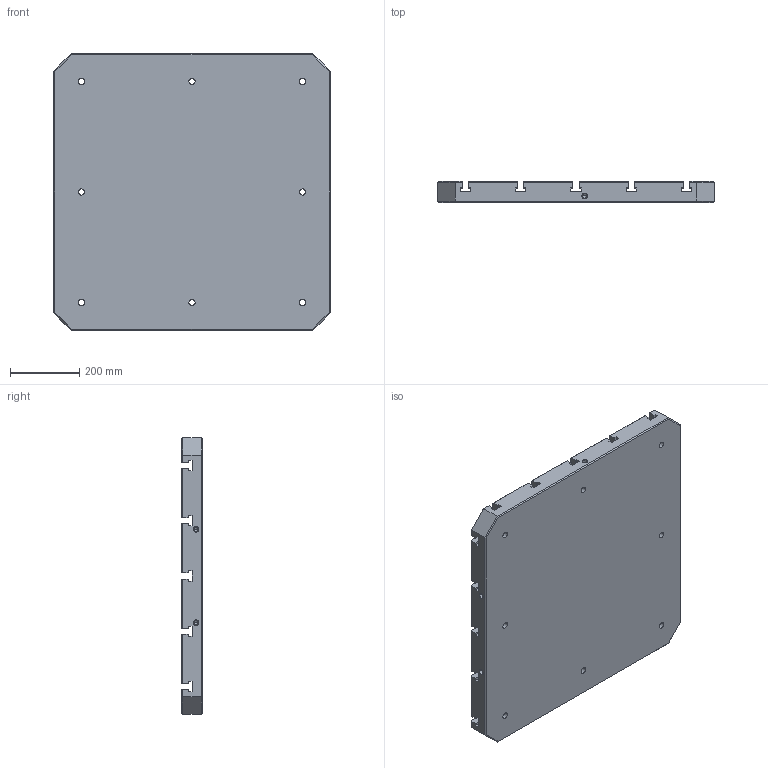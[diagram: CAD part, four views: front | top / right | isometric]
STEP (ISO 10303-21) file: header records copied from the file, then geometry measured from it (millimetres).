
FILE_DESCRIPTION((''),'2;1');
FILE_NAME('FG_WH_BASPL_SQT18NP004','2026-05-17T16:39:16',('Admin'),(''),'CREO PARAMETRIC BY PTC INC, 2025010','CREO PARAMETRIC BY PTC INC, 2025010','');
FILE_SCHEMA(('CONFIG_CONTROL_DESIGN'));
Length unit declared in the file: millimetre
Products named in the file (1): FG_WH_BASPL_SQT18NP004
Bounding box: 800 x 60 x 800 mm (x, y, z)
Volume: 32994950.5 mm3; surface area: 2029421 mm2
Topology: 1 solids, 4 shells, 451 faces, 1202 edges, 793 vertices
Faces by surface type: plane 369, cylinder 76, cone 6
Entity records: 13894 total; most frequent: CARTESIAN_POINT 2441, ORIENTED_EDGE 2380, DIRECTION 2258, EDGE_CURVE 1196, VECTOR 1038, LINE 1038, VERTEX_POINT 793, AXIS2_PLACEMENT_3D 610
